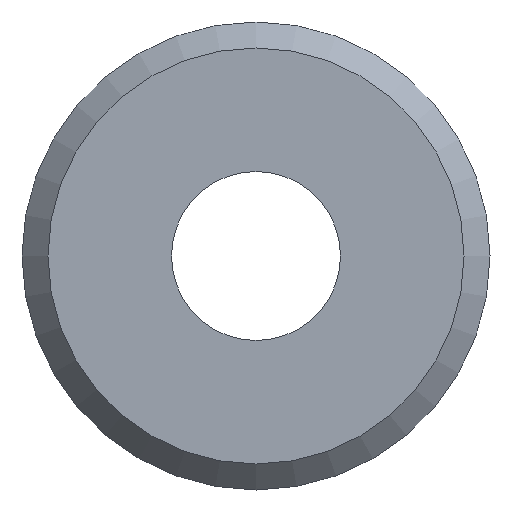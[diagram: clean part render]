
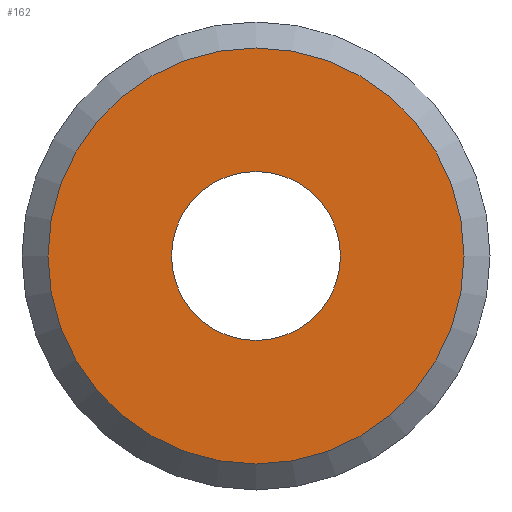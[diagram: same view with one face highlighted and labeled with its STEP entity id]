
A CAD part, front view. The second image highlights one B-rep face of the part: STEP entity #162.
In plain terms, the highlighted planar face has unit normal (0, -1, 0).
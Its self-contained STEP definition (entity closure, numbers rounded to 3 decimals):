
#2 = AXIS2_PLACEMENT_3D ( 'NONE', #20, #32, #126 ) ;
#9 = CARTESIAN_POINT ( 'NONE',  ( 0., 0., 0. ) ) ;
#15 = PLANE ( 'NONE',  #99 ) ;
#20 = CARTESIAN_POINT ( 'NONE',  ( 0., 0., 0. ) ) ;
#26 = FACE_BOUND ( 'NONE', #72, .T. ) ;
#32 = DIRECTION ( 'NONE',  ( 0., 1., 0. ) ) ;
#35 = FACE_OUTER_BOUND ( 'NONE', #85, .T. ) ;
#36 = CARTESIAN_POINT ( 'NONE',  ( 0., 0., 3.25 ) ) ;
#38 = CARTESIAN_POINT ( 'NONE',  ( 3.25, 0., 0. ) ) ;
#44 = DIRECTION ( 'NONE',  ( 0., 0., 1. ) ) ;
#46 = EDGE_CURVE ( 'NONE', #143, #143, #80, .T. ) ;
#72 = EDGE_LOOP ( 'NONE', ( #90 ) ) ;
#80 = CIRCLE ( 'NONE', #2, 3.25 ) ;
#83 = VERTEX_POINT ( 'NONE', #157 ) ;
#85 = EDGE_LOOP ( 'NONE', ( #172 ) ) ;
#90 = ORIENTED_EDGE ( 'NONE', *, *, #46, .T. ) ;
#99 = AXIS2_PLACEMENT_3D ( 'NONE', #38, #130, #106 ) ;
#105 = EDGE_CURVE ( 'NONE', #83, #83, #119, .T. ) ;
#106 = DIRECTION ( 'NONE',  ( 0., 0., 1. ) ) ;
#119 = CIRCLE ( 'NONE', #175, 8. ) ;
#126 = DIRECTION ( 'NONE',  ( 0., 0., 1. ) ) ;
#130 = DIRECTION ( 'NONE',  ( 0., 1., 0. ) ) ;
#143 = VERTEX_POINT ( 'NONE', #36 ) ;
#157 = CARTESIAN_POINT ( 'NONE',  ( 0., 0., 8. ) ) ;
#162 = ADVANCED_FACE ( 'NONE', ( #35, #26 ), #15, .F. ) ;
#167 = DIRECTION ( 'NONE',  ( 0., 1., 0. ) ) ;
#172 = ORIENTED_EDGE ( 'NONE', *, *, #105, .F. ) ;
#175 = AXIS2_PLACEMENT_3D ( 'NONE', #9, #167, #44 ) ;
